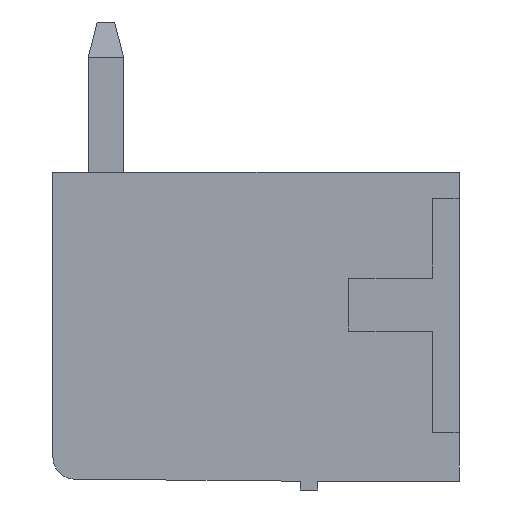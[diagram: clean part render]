
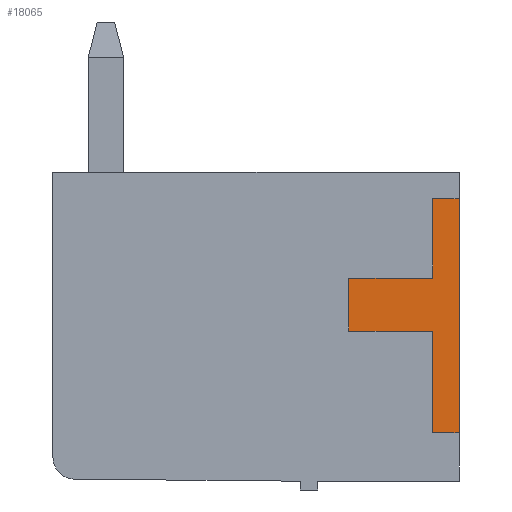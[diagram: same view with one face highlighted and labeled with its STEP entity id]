
A CAD part, left-side view. The second image highlights one B-rep face of the part: STEP entity #18065.
In plain terms, the highlighted planar face has unit normal (-1, 0, 0).
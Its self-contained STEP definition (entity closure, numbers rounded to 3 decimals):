
#4599 = PLANE('',#4600);
#4600 = AXIS2_PLACEMENT_3D('',#4601,#4602,#4603);
#4601 = CARTESIAN_POINT('',(0.,0.,7.));
#4602 = DIRECTION('',(0.,-1.,0.));
#4603 = DIRECTION('',(0.,0.,-1.));
#5275 = VERTEX_POINT('',#5276);
#5276 = CARTESIAN_POINT('',(-0.2,0.,1.1));
#5290 = PLANE('',#5291);
#5291 = AXIS2_PLACEMENT_3D('',#5292,#5293,#5294);
#5292 = CARTESIAN_POINT('',(0.,0.6,1.1));
#5293 = DIRECTION('',(0.,0.,-1.));
#5294 = DIRECTION('',(0.,-1.,0.));
#5302 = EDGE_CURVE('',#5275,#5303,#5305,.T.);
#5303 = VERTEX_POINT('',#5304);
#5304 = CARTESIAN_POINT('',(-0.2,0.,6.4));
#5305 = SURFACE_CURVE('',#5306,(#5310,#5317),.PCURVE_S1.);
#5306 = LINE('',#5307,#5308);
#5307 = CARTESIAN_POINT('',(-0.2,0.,1.1));
#5308 = VECTOR('',#5309,1.);
#5309 = DIRECTION('',(0.,0.,1.));
#5310 = PCURVE('',#4599,#5311);
#5311 = DEFINITIONAL_REPRESENTATION('',(#5312),#5316);
#5312 = LINE('',#5313,#5314);
#5313 = CARTESIAN_POINT('',(5.9,-0.2));
#5314 = VECTOR('',#5315,1.);
#5315 = DIRECTION('',(-1.,0.));
#5316 = ( GEOMETRIC_REPRESENTATION_CONTEXT(2) 
PARAMETRIC_REPRESENTATION_CONTEXT() REPRESENTATION_CONTEXT('2D SPACE',''
  ) );
#5317 = PCURVE('',#5318,#5323);
#5318 = PLANE('',#5319);
#5319 = AXIS2_PLACEMENT_3D('',#5320,#5321,#5322);
#5320 = CARTESIAN_POINT('',(-0.2,0.,0.));
#5321 = DIRECTION('',(-1.,0.,0.));
#5322 = DIRECTION('',(0.,0.,1.));
#5323 = DEFINITIONAL_REPRESENTATION('',(#5324),#5328);
#5324 = LINE('',#5325,#5326);
#5325 = CARTESIAN_POINT('',(1.1,0.));
#5326 = VECTOR('',#5327,1.);
#5327 = DIRECTION('',(1.,0.));
#5328 = ( GEOMETRIC_REPRESENTATION_CONTEXT(2) 
PARAMETRIC_REPRESENTATION_CONTEXT() REPRESENTATION_CONTEXT('2D SPACE',''
  ) );
#5346 = PLANE('',#5347);
#5347 = AXIS2_PLACEMENT_3D('',#5348,#5349,#5350);
#5348 = CARTESIAN_POINT('',(0.,0.,6.4));
#5349 = DIRECTION('',(0.,0.,1.));
#5350 = DIRECTION('',(0.,1.,0.));
#17865 = PLANE('',#17866);
#17866 = AXIS2_PLACEMENT_3D('',#17867,#17868,#17869);
#17867 = CARTESIAN_POINT('',(0.,0.6,6.4));
#17868 = DIRECTION('',(0.,1.,0.));
#17869 = DIRECTION('',(0.,0.,-1.));
#17893 = PLANE('',#17894);
#17894 = AXIS2_PLACEMENT_3D('',#17895,#17896,#17897);
#17895 = CARTESIAN_POINT('',(0.,0.6,4.6));
#17896 = DIRECTION('',(0.,0.,1.));
#17897 = DIRECTION('',(0.,1.,0.));
#17921 = PLANE('',#17922);
#17922 = AXIS2_PLACEMENT_3D('',#17923,#17924,#17925);
#17923 = CARTESIAN_POINT('',(0.,2.5,4.6));
#17924 = DIRECTION('',(0.,1.,0.));
#17925 = DIRECTION('',(0.,0.,-1.));
#17949 = PLANE('',#17950);
#17950 = AXIS2_PLACEMENT_3D('',#17951,#17952,#17953);
#17951 = CARTESIAN_POINT('',(0.,2.5,3.4));
#17952 = DIRECTION('',(0.,0.,-1.));
#17953 = DIRECTION('',(0.,-1.,0.));
#17977 = PLANE('',#17978);
#17978 = AXIS2_PLACEMENT_3D('',#17979,#17980,#17981);
#17979 = CARTESIAN_POINT('',(0.,0.6,3.4));
#17980 = DIRECTION('',(0.,1.,0.));
#17981 = DIRECTION('',(0.,0.,-1.));
#18022 = EDGE_CURVE('',#5303,#18023,#18025,.T.);
#18023 = VERTEX_POINT('',#18024);
#18024 = CARTESIAN_POINT('',(-0.2,0.6,6.4));
#18025 = SURFACE_CURVE('',#18026,(#18030,#18037),.PCURVE_S1.);
#18026 = LINE('',#18027,#18028);
#18027 = CARTESIAN_POINT('',(-0.2,0.,6.4));
#18028 = VECTOR('',#18029,1.);
#18029 = DIRECTION('',(0.,1.,0.));
#18030 = PCURVE('',#5346,#18031);
#18031 = DEFINITIONAL_REPRESENTATION('',(#18032),#18036);
#18032 = LINE('',#18033,#18034);
#18033 = CARTESIAN_POINT('',(0.,0.2));
#18034 = VECTOR('',#18035,1.);
#18035 = DIRECTION('',(1.,0.));
#18036 = ( GEOMETRIC_REPRESENTATION_CONTEXT(2) 
PARAMETRIC_REPRESENTATION_CONTEXT() REPRESENTATION_CONTEXT('2D SPACE',''
  ) );
#18037 = PCURVE('',#5318,#18038);
#18038 = DEFINITIONAL_REPRESENTATION('',(#18039),#18043);
#18039 = LINE('',#18040,#18041);
#18040 = CARTESIAN_POINT('',(6.4,0.));
#18041 = VECTOR('',#18042,1.);
#18042 = DIRECTION('',(0.,1.));
#18043 = ( GEOMETRIC_REPRESENTATION_CONTEXT(2) 
PARAMETRIC_REPRESENTATION_CONTEXT() REPRESENTATION_CONTEXT('2D SPACE',''
  ) );
#18065 = ADVANCED_FACE('',(#18066),#5318,.T.);
#18066 = FACE_BOUND('',#18067,.F.);
#18067 = EDGE_LOOP('',(#18068,#18069,#18070,#18093,#18116,#18139,#18162,
    #18185));
#18068 = ORIENTED_EDGE('',*,*,#18022,.F.);
#18069 = ORIENTED_EDGE('',*,*,#5302,.F.);
#18070 = ORIENTED_EDGE('',*,*,#18071,.F.);
#18071 = EDGE_CURVE('',#18072,#5275,#18074,.T.);
#18072 = VERTEX_POINT('',#18073);
#18073 = CARTESIAN_POINT('',(-0.2,0.6,1.1));
#18074 = SURFACE_CURVE('',#18075,(#18079,#18086),.PCURVE_S1.);
#18075 = LINE('',#18076,#18077);
#18076 = CARTESIAN_POINT('',(-0.2,0.6,1.1));
#18077 = VECTOR('',#18078,1.);
#18078 = DIRECTION('',(0.,-1.,0.));
#18079 = PCURVE('',#5318,#18080);
#18080 = DEFINITIONAL_REPRESENTATION('',(#18081),#18085);
#18081 = LINE('',#18082,#18083);
#18082 = CARTESIAN_POINT('',(1.1,0.6));
#18083 = VECTOR('',#18084,1.);
#18084 = DIRECTION('',(0.,-1.));
#18085 = ( GEOMETRIC_REPRESENTATION_CONTEXT(2) 
PARAMETRIC_REPRESENTATION_CONTEXT() REPRESENTATION_CONTEXT('2D SPACE',''
  ) );
#18086 = PCURVE('',#5290,#18087);
#18087 = DEFINITIONAL_REPRESENTATION('',(#18088),#18092);
#18088 = LINE('',#18089,#18090);
#18089 = CARTESIAN_POINT('',(0.,0.2));
#18090 = VECTOR('',#18091,1.);
#18091 = DIRECTION('',(1.,0.));
#18092 = ( GEOMETRIC_REPRESENTATION_CONTEXT(2) 
PARAMETRIC_REPRESENTATION_CONTEXT() REPRESENTATION_CONTEXT('2D SPACE',''
  ) );
#18093 = ORIENTED_EDGE('',*,*,#18094,.F.);
#18094 = EDGE_CURVE('',#18095,#18072,#18097,.T.);
#18095 = VERTEX_POINT('',#18096);
#18096 = CARTESIAN_POINT('',(-0.2,0.6,3.4));
#18097 = SURFACE_CURVE('',#18098,(#18102,#18109),.PCURVE_S1.);
#18098 = LINE('',#18099,#18100);
#18099 = CARTESIAN_POINT('',(-0.2,0.6,3.4));
#18100 = VECTOR('',#18101,1.);
#18101 = DIRECTION('',(0.,0.,-1.));
#18102 = PCURVE('',#5318,#18103);
#18103 = DEFINITIONAL_REPRESENTATION('',(#18104),#18108);
#18104 = LINE('',#18105,#18106);
#18105 = CARTESIAN_POINT('',(3.4,0.6));
#18106 = VECTOR('',#18107,1.);
#18107 = DIRECTION('',(-1.,0.));
#18108 = ( GEOMETRIC_REPRESENTATION_CONTEXT(2) 
PARAMETRIC_REPRESENTATION_CONTEXT() REPRESENTATION_CONTEXT('2D SPACE',''
  ) );
#18109 = PCURVE('',#17977,#18110);
#18110 = DEFINITIONAL_REPRESENTATION('',(#18111),#18115);
#18111 = LINE('',#18112,#18113);
#18112 = CARTESIAN_POINT('',(0.,0.2));
#18113 = VECTOR('',#18114,1.);
#18114 = DIRECTION('',(1.,0.));
#18115 = ( GEOMETRIC_REPRESENTATION_CONTEXT(2) 
PARAMETRIC_REPRESENTATION_CONTEXT() REPRESENTATION_CONTEXT('2D SPACE',''
  ) );
#18116 = ORIENTED_EDGE('',*,*,#18117,.F.);
#18117 = EDGE_CURVE('',#18118,#18095,#18120,.T.);
#18118 = VERTEX_POINT('',#18119);
#18119 = CARTESIAN_POINT('',(-0.2,2.5,3.4));
#18120 = SURFACE_CURVE('',#18121,(#18125,#18132),.PCURVE_S1.);
#18121 = LINE('',#18122,#18123);
#18122 = CARTESIAN_POINT('',(-0.2,2.5,3.4));
#18123 = VECTOR('',#18124,1.);
#18124 = DIRECTION('',(0.,-1.,0.));
#18125 = PCURVE('',#5318,#18126);
#18126 = DEFINITIONAL_REPRESENTATION('',(#18127),#18131);
#18127 = LINE('',#18128,#18129);
#18128 = CARTESIAN_POINT('',(3.4,2.5));
#18129 = VECTOR('',#18130,1.);
#18130 = DIRECTION('',(0.,-1.));
#18131 = ( GEOMETRIC_REPRESENTATION_CONTEXT(2) 
PARAMETRIC_REPRESENTATION_CONTEXT() REPRESENTATION_CONTEXT('2D SPACE',''
  ) );
#18132 = PCURVE('',#17949,#18133);
#18133 = DEFINITIONAL_REPRESENTATION('',(#18134),#18138);
#18134 = LINE('',#18135,#18136);
#18135 = CARTESIAN_POINT('',(0.,0.2));
#18136 = VECTOR('',#18137,1.);
#18137 = DIRECTION('',(1.,0.));
#18138 = ( GEOMETRIC_REPRESENTATION_CONTEXT(2) 
PARAMETRIC_REPRESENTATION_CONTEXT() REPRESENTATION_CONTEXT('2D SPACE',''
  ) );
#18139 = ORIENTED_EDGE('',*,*,#18140,.F.);
#18140 = EDGE_CURVE('',#18141,#18118,#18143,.T.);
#18141 = VERTEX_POINT('',#18142);
#18142 = CARTESIAN_POINT('',(-0.2,2.5,4.6));
#18143 = SURFACE_CURVE('',#18144,(#18148,#18155),.PCURVE_S1.);
#18144 = LINE('',#18145,#18146);
#18145 = CARTESIAN_POINT('',(-0.2,2.5,4.6));
#18146 = VECTOR('',#18147,1.);
#18147 = DIRECTION('',(0.,0.,-1.));
#18148 = PCURVE('',#5318,#18149);
#18149 = DEFINITIONAL_REPRESENTATION('',(#18150),#18154);
#18150 = LINE('',#18151,#18152);
#18151 = CARTESIAN_POINT('',(4.6,2.5));
#18152 = VECTOR('',#18153,1.);
#18153 = DIRECTION('',(-1.,0.));
#18154 = ( GEOMETRIC_REPRESENTATION_CONTEXT(2) 
PARAMETRIC_REPRESENTATION_CONTEXT() REPRESENTATION_CONTEXT('2D SPACE',''
  ) );
#18155 = PCURVE('',#17921,#18156);
#18156 = DEFINITIONAL_REPRESENTATION('',(#18157),#18161);
#18157 = LINE('',#18158,#18159);
#18158 = CARTESIAN_POINT('',(0.,0.2));
#18159 = VECTOR('',#18160,1.);
#18160 = DIRECTION('',(1.,0.));
#18161 = ( GEOMETRIC_REPRESENTATION_CONTEXT(2) 
PARAMETRIC_REPRESENTATION_CONTEXT() REPRESENTATION_CONTEXT('2D SPACE',''
  ) );
#18162 = ORIENTED_EDGE('',*,*,#18163,.F.);
#18163 = EDGE_CURVE('',#18164,#18141,#18166,.T.);
#18164 = VERTEX_POINT('',#18165);
#18165 = CARTESIAN_POINT('',(-0.2,0.6,4.6));
#18166 = SURFACE_CURVE('',#18167,(#18171,#18178),.PCURVE_S1.);
#18167 = LINE('',#18168,#18169);
#18168 = CARTESIAN_POINT('',(-0.2,0.6,4.6));
#18169 = VECTOR('',#18170,1.);
#18170 = DIRECTION('',(0.,1.,0.));
#18171 = PCURVE('',#5318,#18172);
#18172 = DEFINITIONAL_REPRESENTATION('',(#18173),#18177);
#18173 = LINE('',#18174,#18175);
#18174 = CARTESIAN_POINT('',(4.6,0.6));
#18175 = VECTOR('',#18176,1.);
#18176 = DIRECTION('',(0.,1.));
#18177 = ( GEOMETRIC_REPRESENTATION_CONTEXT(2) 
PARAMETRIC_REPRESENTATION_CONTEXT() REPRESENTATION_CONTEXT('2D SPACE',''
  ) );
#18178 = PCURVE('',#17893,#18179);
#18179 = DEFINITIONAL_REPRESENTATION('',(#18180),#18184);
#18180 = LINE('',#18181,#18182);
#18181 = CARTESIAN_POINT('',(0.,0.2));
#18182 = VECTOR('',#18183,1.);
#18183 = DIRECTION('',(1.,0.));
#18184 = ( GEOMETRIC_REPRESENTATION_CONTEXT(2) 
PARAMETRIC_REPRESENTATION_CONTEXT() REPRESENTATION_CONTEXT('2D SPACE',''
  ) );
#18185 = ORIENTED_EDGE('',*,*,#18186,.F.);
#18186 = EDGE_CURVE('',#18023,#18164,#18187,.T.);
#18187 = SURFACE_CURVE('',#18188,(#18192,#18199),.PCURVE_S1.);
#18188 = LINE('',#18189,#18190);
#18189 = CARTESIAN_POINT('',(-0.2,0.6,6.4));
#18190 = VECTOR('',#18191,1.);
#18191 = DIRECTION('',(0.,0.,-1.));
#18192 = PCURVE('',#5318,#18193);
#18193 = DEFINITIONAL_REPRESENTATION('',(#18194),#18198);
#18194 = LINE('',#18195,#18196);
#18195 = CARTESIAN_POINT('',(6.4,0.6));
#18196 = VECTOR('',#18197,1.);
#18197 = DIRECTION('',(-1.,0.));
#18198 = ( GEOMETRIC_REPRESENTATION_CONTEXT(2) 
PARAMETRIC_REPRESENTATION_CONTEXT() REPRESENTATION_CONTEXT('2D SPACE',''
  ) );
#18199 = PCURVE('',#17865,#18200);
#18200 = DEFINITIONAL_REPRESENTATION('',(#18201),#18205);
#18201 = LINE('',#18202,#18203);
#18202 = CARTESIAN_POINT('',(0.,0.2));
#18203 = VECTOR('',#18204,1.);
#18204 = DIRECTION('',(1.,0.));
#18205 = ( GEOMETRIC_REPRESENTATION_CONTEXT(2) 
PARAMETRIC_REPRESENTATION_CONTEXT() REPRESENTATION_CONTEXT('2D SPACE',''
  ) );
